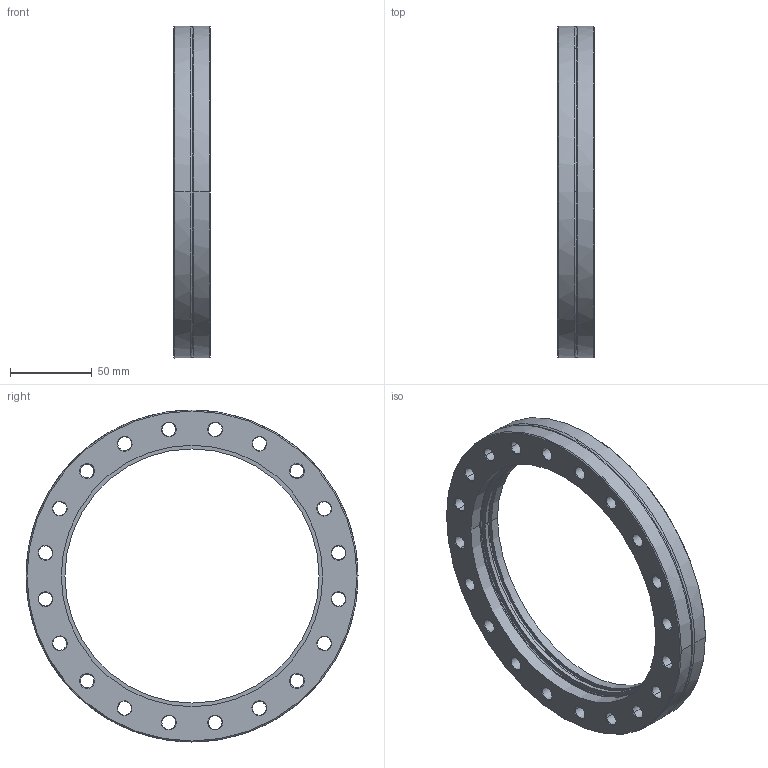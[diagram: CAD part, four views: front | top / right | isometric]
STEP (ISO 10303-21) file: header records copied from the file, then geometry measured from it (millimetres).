
FILE_DESCRIPTION((''),'2;1');
FILE_NAME('N:\Transfer\Berger Martin\Leybold\C15\83540.stp','2005-02-07T08:57:15',('VCRC_L'),(''),'Autodesk Inventor 9','Autodesk Inventor 9','');
FILE_SCHEMA(('AUTOMOTIVE_DESIGN { 1 0 10303 214 1 1 1 1 }'));
Length unit declared in the file: millimetre
Products named in the file (1): 83540
Bounding box: 22 x 202.5 x 202.5 mm (x, y, z)
Volume: 248460.9 mm3; surface area: 63254.8 mm2
Topology: 1 solids, 1 shells, 168 faces, 399 edges, 236 vertices
Faces by surface type: cone 94, bspline 48, cylinder 14, torus 6, plane 6
Entity records: 5898 total; most frequent: CARTESIAN_POINT 1960, DIRECTION 861, ORIENTED_EDGE 798, EDGE_CURVE 399, AXIS2_PLACEMENT_3D 357, VERTEX_POINT 236, CIRCLE 236, EDGE_LOOP 213
